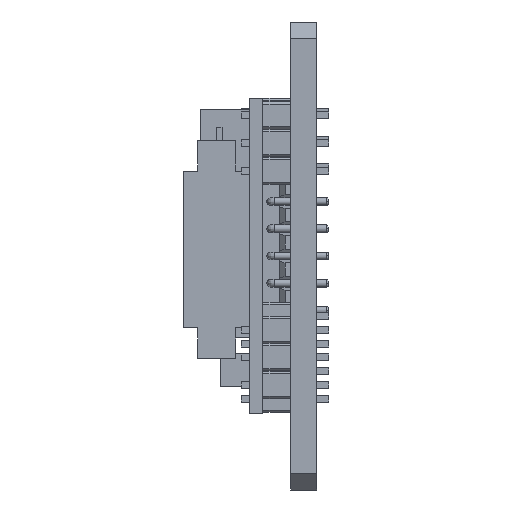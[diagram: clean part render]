
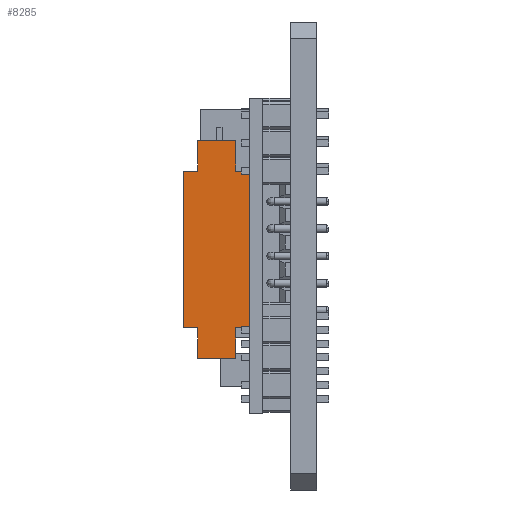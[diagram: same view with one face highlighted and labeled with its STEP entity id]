
A CAD part, left-side view. The second image highlights one B-rep face of the part: STEP entity #8285.
In plain terms, the highlighted planar face has unit normal (-1, 0, 0).
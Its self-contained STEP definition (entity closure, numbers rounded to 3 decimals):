
#3386 = CARTESIAN_POINT ( 'NONE',  ( -22.75, 12.24, 10.6 ) ) ;
#3394 = FACE_OUTER_BOUND ( 'NONE', #4088, .T. ) ;
#3395 = PLANE ( 'NONE',  #12087 ) ;
#3397 = DIRECTION ( 'NONE',  ( 1., 0., 0. ) ) ;
#3398 = DIRECTION ( 'NONE',  ( 0., 0., -1. ) ) ;
#4088 = EDGE_LOOP ( 'NONE', ( #14956, #14955, #14954, #14953, #14952, #14951, #14950, #14949, #14948, #14947, #14946, #14945 ) ) ;
#4550 = VERTEX_POINT ( 'NONE', #8652 ) ;
#4551 = VERTEX_POINT ( 'NONE', #8653 ) ;
#4552 = VERTEX_POINT ( 'NONE', #8654 ) ;
#4554 = VERTEX_POINT ( 'NONE', #8656 ) ;
#4555 = VERTEX_POINT ( 'NONE', #8657 ) ;
#4574 = VERTEX_POINT ( 'NONE', #8676 ) ;
#4598 = VERTEX_POINT ( 'NONE', #8700 ) ;
#6704 = EDGE_CURVE ( 'NONE', #9525, #9520, #8865, .T. ) ;
#6709 = EDGE_CURVE ( 'NONE', #4554, #4555, #8880, .T. ) ;
#6716 = EDGE_CURVE ( 'NONE', #4550, #4554, #8901, .T. ) ;
#6725 = EDGE_CURVE ( 'NONE', #9526, #4550, #8925, .T. ) ;
#6740 = EDGE_CURVE ( 'NONE', #4555, #4552, #8980, .T. ) ;
#6753 = EDGE_CURVE ( 'NONE', #4552, #4551, #9019, .T. ) ;
#6761 = EDGE_CURVE ( 'NONE', #9320, #9317, #9043, .T. ) ;
#6771 = EDGE_CURVE ( 'NONE', #9317, #4598, #9062, .T. ) ;
#6780 = EDGE_CURVE ( 'NONE', #4574, #9525, #18752, .T. ) ;
#6781 = EDGE_CURVE ( 'NONE', #4551, #9320, #18739, .T. ) ;
#7105 = EDGE_CURVE ( 'NONE', #4574, #4598, #13120, .T. ) ;
#8011 = VECTOR ( 'NONE', #8983, 1000. ) ;
#8017 = VECTOR ( 'NONE', #18755, 1000. ) ;
#8018 = VECTOR ( 'NONE', #18727, 1000. ) ;
#8039 = VECTOR ( 'NONE', #9045, 1000. ) ;
#8067 = VECTOR ( 'NONE', #8875, 1000. ) ;
#8089 = VECTOR ( 'NONE', #8890, 1000. ) ;
#8094 = VECTOR ( 'NONE', #18757, 1000. ) ;
#8110 = VECTOR ( 'NONE', #8910, 1000. ) ;
#8112 = VECTOR ( 'NONE', #8938, 1000. ) ;
#8130 = VECTOR ( 'NONE', #9021, 1000. ) ;
#8285 = ADVANCED_FACE ( 'NONE', ( #3394 ), #3395, .F. ) ;
#8652 = CARTESIAN_POINT ( 'NONE',  ( -22.75, 10.94, -6.6 ) ) ;
#8653 = CARTESIAN_POINT ( 'NONE',  ( -22.75, 10.94, 10.6 ) ) ;
#8654 = CARTESIAN_POINT ( 'NONE',  ( -22.75, 10.94, 7.8 ) ) ;
#8656 = CARTESIAN_POINT ( 'NONE',  ( -22.75, 12.24, -6.6 ) ) ;
#8657 = CARTESIAN_POINT ( 'NONE',  ( -22.75, 12.24, 7.8 ) ) ;
#8676 = CARTESIAN_POINT ( 'NONE',  ( -22.75, 6.14, -6.6 ) ) ;
#8700 = CARTESIAN_POINT ( 'NONE',  ( -22.75, 6.14, 7.8 ) ) ;
#8865 = LINE ( 'NONE', #8873, #8067 ) ;
#8873 = CARTESIAN_POINT ( 'NONE',  ( -22.75, 7.44, -9.4 ) ) ;
#8875 = DIRECTION ( 'NONE',  ( 0., 0., -1. ) ) ;
#8880 = LINE ( 'NONE', #8888, #8089 ) ;
#8888 = CARTESIAN_POINT ( 'NONE',  ( -22.75, 12.24, 10.6 ) ) ;
#8890 = DIRECTION ( 'NONE',  ( 0., 0., 1. ) ) ;
#8901 = LINE ( 'NONE', #8909, #8110 ) ;
#8909 = CARTESIAN_POINT ( 'NONE',  ( -22.75, 12.24, -6.6 ) ) ;
#8910 = DIRECTION ( 'NONE',  ( 0., 1., 0. ) ) ;
#8925 = LINE ( 'NONE', #8936, #8112 ) ;
#8936 = CARTESIAN_POINT ( 'NONE',  ( -22.75, 10.94, -9.4 ) ) ;
#8938 = DIRECTION ( 'NONE',  ( 0., 0., 1. ) ) ;
#8980 = LINE ( 'NONE', #8982, #8011 ) ;
#8982 = CARTESIAN_POINT ( 'NONE',  ( -22.75, 12.24, 7.8 ) ) ;
#8983 = DIRECTION ( 'NONE',  ( 0., -1., 0. ) ) ;
#9019 = LINE ( 'NONE', #9020, #8130 ) ;
#9020 = CARTESIAN_POINT ( 'NONE',  ( -22.75, 10.94, 10.6 ) ) ;
#9021 = DIRECTION ( 'NONE',  ( 0., 0., 1. ) ) ;
#9043 = LINE ( 'NONE', #9044, #8039 ) ;
#9044 = CARTESIAN_POINT ( 'NONE',  ( -22.75, 7.44, 10.6 ) ) ;
#9045 = DIRECTION ( 'NONE',  ( 0., 0., -1. ) ) ;
#9062 = LINE ( 'NONE', #18726, #8018 ) ;
#9317 = VERTEX_POINT ( 'NONE', #15383 ) ;
#9320 = VERTEX_POINT ( 'NONE', #15378 ) ;
#9520 = VERTEX_POINT ( 'NONE', #15583 ) ;
#9525 = VERTEX_POINT ( 'NONE', #15588 ) ;
#9526 = VERTEX_POINT ( 'NONE', #15589 ) ;
#10268 = EDGE_CURVE ( 'NONE', #9526, #9520, #10632, .T. ) ;
#10632 = LINE ( 'NONE', #10633, #12523 ) ;
#10633 = CARTESIAN_POINT ( 'NONE',  ( -22.75, 12.24, -9.4 ) ) ;
#10634 = DIRECTION ( 'NONE',  ( 0., -1., 0. ) ) ;
#11940 = VECTOR ( 'NONE', #13131, 1000. ) ;
#12087 = AXIS2_PLACEMENT_3D ( 'NONE', #3386, #3397, #3398 ) ;
#12523 = VECTOR ( 'NONE', #10634, 1000. ) ;
#13120 = LINE ( 'NONE', #13121, #11940 ) ;
#13121 = CARTESIAN_POINT ( 'NONE',  ( -22.75, 6.14, 10.6 ) ) ;
#13131 = DIRECTION ( 'NONE',  ( 0., 0., 1. ) ) ;
#14945 = ORIENTED_EDGE ( 'NONE', *, *, #6780, .F. ) ;
#14946 = ORIENTED_EDGE ( 'NONE', *, *, #6704, .F. ) ;
#14947 = ORIENTED_EDGE ( 'NONE', *, *, #10268, .T. ) ;
#14948 = ORIENTED_EDGE ( 'NONE', *, *, #6725, .F. ) ;
#14949 = ORIENTED_EDGE ( 'NONE', *, *, #6716, .F. ) ;
#14950 = ORIENTED_EDGE ( 'NONE', *, *, #6709, .F. ) ;
#14951 = ORIENTED_EDGE ( 'NONE', *, *, #6740, .F. ) ;
#14952 = ORIENTED_EDGE ( 'NONE', *, *, #6753, .F. ) ;
#14953 = ORIENTED_EDGE ( 'NONE', *, *, #6781, .F. ) ;
#14954 = ORIENTED_EDGE ( 'NONE', *, *, #6761, .F. ) ;
#14955 = ORIENTED_EDGE ( 'NONE', *, *, #6771, .F. ) ;
#14956 = ORIENTED_EDGE ( 'NONE', *, *, #7105, .T. ) ;
#15378 = CARTESIAN_POINT ( 'NONE',  ( -22.75, 7.44, 10.6 ) ) ;
#15383 = CARTESIAN_POINT ( 'NONE',  ( -22.75, 7.44, 7.8 ) ) ;
#15583 = CARTESIAN_POINT ( 'NONE',  ( -22.75, 7.44, -9.4 ) ) ;
#15588 = CARTESIAN_POINT ( 'NONE',  ( -22.75, 7.44, -6.6 ) ) ;
#15589 = CARTESIAN_POINT ( 'NONE',  ( -22.75, 10.94, -9.4 ) ) ;
#18726 = CARTESIAN_POINT ( 'NONE',  ( -22.75, 6.14, 7.8 ) ) ;
#18727 = DIRECTION ( 'NONE',  ( 0., -1., 0. ) ) ;
#18739 = LINE ( 'NONE', #18756, #8094 ) ;
#18752 = LINE ( 'NONE', #18754, #8017 ) ;
#18754 = CARTESIAN_POINT ( 'NONE',  ( -22.75, 6.14, -6.6 ) ) ;
#18755 = DIRECTION ( 'NONE',  ( 0., 1., 0. ) ) ;
#18756 = CARTESIAN_POINT ( 'NONE',  ( -22.75, 12.24, 10.6 ) ) ;
#18757 = DIRECTION ( 'NONE',  ( 0., -1., 0. ) ) ;
